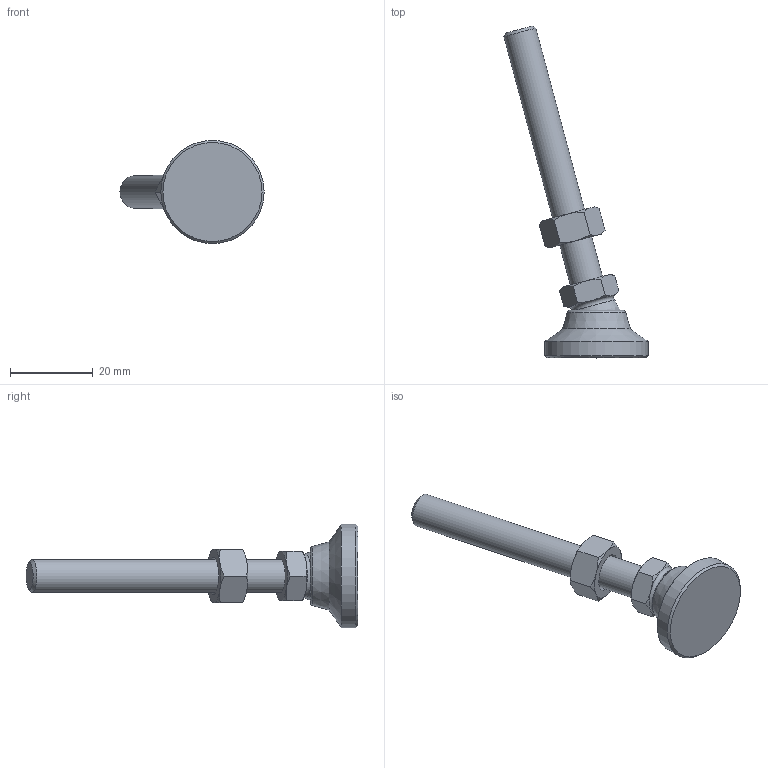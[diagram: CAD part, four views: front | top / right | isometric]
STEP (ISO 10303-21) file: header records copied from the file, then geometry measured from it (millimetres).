
FILE_DESCRIPTION( ( 'STEP AP214' ), ' ' );
FILE_NAME( 'O:/ganter_2015/teil_2/2_5/gn343_2/gn343_2_os/Levelling foot with threaded stud GN 343.2-25-M8-63-OS-(15).stp', '2015-10-26T09:06:38', ( '' ), ( '' ), ' ', 'PARTsolutions', ' ' );
FILE_SCHEMA( ( 'AUTOMOTIVE_DESIGN { 1 0 10303 214 1 1 1 1 }' ) );
Length unit declared in the file: millimetre
Products named in the file (4): Levelling foot with threaded stud GN 343.2-25-M8-63-OS-(15); _Levelling foot with threaded stud GN 343.2-25-M8-63-OS-(15)_foot; _Levelling foot with threaded stud GN 343.2-25-M8-63-OS-(15)_screw; _Stainless Steel-Levelling feet GN 343.2-25-M8-63-OS-(15)_nut
Assembly tree (3 placements, depth 2):
  Levelling foot with threaded stud GN 343.2-25-M8-63-OS-(15)
    _Levelling foot with threaded stud GN 343.2-25-M8-63-OS-(15)_foot
    _Levelling foot with threaded stud GN 343.2-25-M8-63-OS-(15)_screw
    _Stainless Steel-Levelling feet GN 343.2-25-M8-63-OS-(15)_nut
Bounding box: 34.93 x 80.39 x 25 mm (x, y, z)
Volume: 8561.1 mm3; surface area: 4672.8 mm2
Topology: 3 solids, 3 shells, 55 faces, 122 edges, 73 vertices
Faces by surface type: cone 30, plane 18, cylinder 3, torus 2, sphere 1, bspline 1
Full cylindrical faces by diameter (mm): 6.647 x1, 8 x1, 25 x1
Entity records: 2119 total; most frequent: CARTESIAN_POINT 550, ORIENTED_EDGE 210, DIRECTION 206, EDGE_CURVE 105, AXIS2_PLACEMENT_3D 97, VERTEX_POINT 71, EDGE_LOOP 70, FACE_OUTER_BOUND 60
